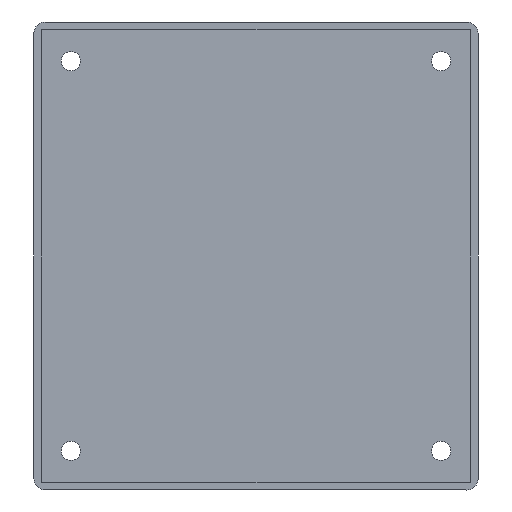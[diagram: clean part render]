
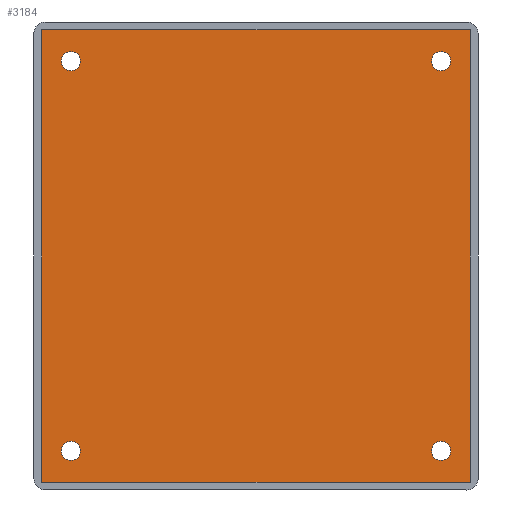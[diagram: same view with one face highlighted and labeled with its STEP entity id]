
A CAD part, front view. The second image highlights one B-rep face of the part: STEP entity #3184.
In plain terms, the highlighted planar face has unit normal (0, -1, 0).
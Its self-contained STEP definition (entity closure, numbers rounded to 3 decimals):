
#7 = CARTESIAN_POINT ( 'NONE',  ( 24.13, -0.1, 25.4 ) ) ;
#23 = ORIENTED_EDGE ( 'NONE', *, *, #3207, .F. ) ;
#49 = AXIS2_PLACEMENT_3D ( 'NONE', #175, #3267, #767 ) ;
#90 = ORIENTED_EDGE ( 'NONE', *, *, #3478, .T. ) ;
#96 = CIRCLE ( 'NONE', #988, 1.25 ) ;
#102 = ORIENTED_EDGE ( 'NONE', *, *, #3242, .F. ) ;
#121 = EDGE_CURVE ( 'NONE', #2958, #3104, #1787, .T. ) ;
#126 = DIRECTION ( 'NONE',  ( 0., 0., 1. ) ) ;
#162 = FACE_BOUND ( 'NONE', #924, .T. ) ;
#175 = CARTESIAN_POINT ( 'NONE',  ( -24.13, -0.1, 25.4 ) ) ;
#182 = EDGE_CURVE ( 'NONE', #1583, #2815, #2997, .T. ) ;
#220 = DIRECTION ( 'NONE',  ( 0., 0., 1. ) ) ;
#230 = CARTESIAN_POINT ( 'NONE',  ( -27.95, -0.1, 29.5 ) ) ;
#268 = VECTOR ( 'NONE', #614, 1000. ) ;
#315 = CARTESIAN_POINT ( 'NONE',  ( -24.13, -0.1, 24.15 ) ) ;
#327 = VERTEX_POINT ( 'NONE', #1725 ) ;
#381 = CIRCLE ( 'NONE', #715, 1.25 ) ;
#544 = CARTESIAN_POINT ( 'NONE',  ( -24.13, -0.1, -26.65 ) ) ;
#566 = DIRECTION ( 'NONE',  ( 0., -1., 0. ) ) ;
#582 = CARTESIAN_POINT ( 'NONE',  ( 27.95, -0.1, 0. ) ) ;
#614 = DIRECTION ( 'NONE',  ( 0., 0., 1. ) ) ;
#618 = CARTESIAN_POINT ( 'NONE',  ( -24.13, -0.1, -25.4 ) ) ;
#644 = AXIS2_PLACEMENT_3D ( 'NONE', #7, #2832, #1949 ) ;
#685 = FACE_BOUND ( 'NONE', #2886, .T. ) ;
#693 = VECTOR ( 'NONE', #3502, 1000. ) ;
#696 = CIRCLE ( 'NONE', #791, 1.25 ) ;
#715 = AXIS2_PLACEMENT_3D ( 'NONE', #2239, #566, #3082 ) ;
#767 = DIRECTION ( 'NONE',  ( 0., 0., 1. ) ) ;
#791 = AXIS2_PLACEMENT_3D ( 'NONE', #618, #1184, #2590 ) ;
#807 = VERTEX_POINT ( 'NONE', #544 ) ;
#809 = CIRCLE ( 'NONE', #644, 1.25 ) ;
#828 = DIRECTION ( 'NONE',  ( 0., -1., 0. ) ) ;
#830 = ORIENTED_EDGE ( 'NONE', *, *, #2484, .F. ) ;
#850 = VERTEX_POINT ( 'NONE', #315 ) ;
#924 = EDGE_LOOP ( 'NONE', ( #3013, #23 ) ) ;
#960 = CARTESIAN_POINT ( 'NONE',  ( -24.13, -0.1, 26.65 ) ) ;
#968 = EDGE_LOOP ( 'NONE', ( #3504, #90, #1879, #3154 ) ) ;
#988 = AXIS2_PLACEMENT_3D ( 'NONE', #1352, #828, #1090 ) ;
#1021 = DIRECTION ( 'NONE',  ( 0., 0., 1. ) ) ;
#1030 = PLANE ( 'NONE',  #3616 ) ;
#1087 = AXIS2_PLACEMENT_3D ( 'NONE', #2425, #1317, #220 ) ;
#1090 = DIRECTION ( 'NONE',  ( 0., 0., 1. ) ) ;
#1127 = EDGE_CURVE ( 'NONE', #1716, #850, #1797, .T. ) ;
#1133 = CIRCLE ( 'NONE', #3116, 1.25 ) ;
#1184 = DIRECTION ( 'NONE',  ( 0., -1., 0. ) ) ;
#1260 = EDGE_CURVE ( 'NONE', #807, #2733, #96, .T. ) ;
#1290 = LINE ( 'NONE', #2904, #2519 ) ;
#1317 = DIRECTION ( 'NONE',  ( 0., -1., 0. ) ) ;
#1326 = CARTESIAN_POINT ( 'NONE',  ( -27.95, -0.1, -29.5 ) ) ;
#1344 = CARTESIAN_POINT ( 'NONE',  ( 27.95, -0.1, 29.5 ) ) ;
#1352 = CARTESIAN_POINT ( 'NONE',  ( -24.13, -0.1, -25.4 ) ) ;
#1391 = CARTESIAN_POINT ( 'NONE',  ( 27.95, -0.1, -29.5 ) ) ;
#1397 = CARTESIAN_POINT ( 'NONE',  ( -27.95, -0.1, 0. ) ) ;
#1418 = VERTEX_POINT ( 'NONE', #2246 ) ;
#1583 = VERTEX_POINT ( 'NONE', #2294 ) ;
#1591 = DIRECTION ( 'NONE',  ( 0., -1., 0. ) ) ;
#1694 = VECTOR ( 'NONE', #1966, 1000. ) ;
#1716 = VERTEX_POINT ( 'NONE', #960 ) ;
#1725 = CARTESIAN_POINT ( 'NONE',  ( 24.13, -0.1, 26.65 ) ) ;
#1787 = CIRCLE ( 'NONE', #1087, 1.25 ) ;
#1797 = CIRCLE ( 'NONE', #49, 1.25 ) ;
#1803 = EDGE_CURVE ( 'NONE', #1418, #327, #2496, .T. ) ;
#1872 = CARTESIAN_POINT ( 'NONE',  ( 24.13, -0.1, 25.4 ) ) ;
#1873 = LINE ( 'NONE', #582, #268 ) ;
#1879 = ORIENTED_EDGE ( 'NONE', *, *, #182, .T. ) ;
#1949 = DIRECTION ( 'NONE',  ( 0., 0., 1. ) ) ;
#1966 = DIRECTION ( 'NONE',  ( 0., 0., -1. ) ) ;
#2042 = CARTESIAN_POINT ( 'NONE',  ( 24.13, -0.1, -24.15 ) ) ;
#2049 = EDGE_CURVE ( 'NONE', #3271, #2288, #1873, .T. ) ;
#2085 = LINE ( 'NONE', #3488, #693 ) ;
#2095 = DIRECTION ( 'NONE',  ( 0., -1., 0. ) ) ;
#2130 = DIRECTION ( 'NONE',  ( 0., -1., 0. ) ) ;
#2239 = CARTESIAN_POINT ( 'NONE',  ( -24.13, -0.1, 25.4 ) ) ;
#2246 = CARTESIAN_POINT ( 'NONE',  ( 24.13, -0.1, 24.15 ) ) ;
#2288 = VERTEX_POINT ( 'NONE', #1344 ) ;
#2293 = ORIENTED_EDGE ( 'NONE', *, *, #2995, .F. ) ;
#2294 = CARTESIAN_POINT ( 'NONE',  ( -27.95, -0.1, 29.5 ) ) ;
#2333 = CARTESIAN_POINT ( 'NONE',  ( 24.13, -0.1, -25.4 ) ) ;
#2425 = CARTESIAN_POINT ( 'NONE',  ( 24.13, -0.1, -25.4 ) ) ;
#2462 = ORIENTED_EDGE ( 'NONE', *, *, #1260, .F. ) ;
#2484 = EDGE_CURVE ( 'NONE', #2733, #807, #696, .T. ) ;
#2496 = CIRCLE ( 'NONE', #2504, 1.25 ) ;
#2504 = AXIS2_PLACEMENT_3D ( 'NONE', #1872, #2130, #1021 ) ;
#2519 = VECTOR ( 'NONE', #3007, 1000. ) ;
#2557 = EDGE_CURVE ( 'NONE', #2815, #3271, #2085, .T. ) ;
#2590 = DIRECTION ( 'NONE',  ( 0., 0., 1. ) ) ;
#2710 = EDGE_LOOP ( 'NONE', ( #830, #2462 ) ) ;
#2718 = CARTESIAN_POINT ( 'NONE',  ( -24.13, -0.1, -24.15 ) ) ;
#2733 = VERTEX_POINT ( 'NONE', #2718 ) ;
#2761 = FACE_OUTER_BOUND ( 'NONE', #968, .T. ) ;
#2815 = VERTEX_POINT ( 'NONE', #1326 ) ;
#2832 = DIRECTION ( 'NONE',  ( 0., -1., 0. ) ) ;
#2886 = EDGE_LOOP ( 'NONE', ( #3549, #2293 ) ) ;
#2904 = CARTESIAN_POINT ( 'NONE',  ( 0., -0.1, 29.5 ) ) ;
#2958 = VERTEX_POINT ( 'NONE', #2042 ) ;
#2995 = EDGE_CURVE ( 'NONE', #3104, #2958, #1133, .T. ) ;
#2997 = LINE ( 'NONE', #1397, #1694 ) ;
#3007 = DIRECTION ( 'NONE',  ( -1., 0., 0. ) ) ;
#3013 = ORIENTED_EDGE ( 'NONE', *, *, #1127, .F. ) ;
#3023 = DIRECTION ( 'NONE',  ( 0., 0., -1. ) ) ;
#3082 = DIRECTION ( 'NONE',  ( 0., 0., 1. ) ) ;
#3104 = VERTEX_POINT ( 'NONE', #3546 ) ;
#3116 = AXIS2_PLACEMENT_3D ( 'NONE', #2333, #2095, #126 ) ;
#3130 = EDGE_LOOP ( 'NONE', ( #102, #3645 ) ) ;
#3154 = ORIENTED_EDGE ( 'NONE', *, *, #2557, .T. ) ;
#3184 = ADVANCED_FACE ( 'NONE', ( #3522, #162, #3197, #685, #2761 ), #1030, .T. ) ;
#3197 = FACE_BOUND ( 'NONE', #3130, .T. ) ;
#3207 = EDGE_CURVE ( 'NONE', #850, #1716, #381, .T. ) ;
#3242 = EDGE_CURVE ( 'NONE', #327, #1418, #809, .T. ) ;
#3267 = DIRECTION ( 'NONE',  ( 0., -1., 0. ) ) ;
#3271 = VERTEX_POINT ( 'NONE', #1391 ) ;
#3478 = EDGE_CURVE ( 'NONE', #2288, #1583, #1290, .T. ) ;
#3488 = CARTESIAN_POINT ( 'NONE',  ( 0., -0.1, -29.5 ) ) ;
#3502 = DIRECTION ( 'NONE',  ( 1., 0., 0. ) ) ;
#3504 = ORIENTED_EDGE ( 'NONE', *, *, #2049, .T. ) ;
#3522 = FACE_BOUND ( 'NONE', #2710, .T. ) ;
#3546 = CARTESIAN_POINT ( 'NONE',  ( 24.13, -0.1, -26.65 ) ) ;
#3549 = ORIENTED_EDGE ( 'NONE', *, *, #121, .F. ) ;
#3616 = AXIS2_PLACEMENT_3D ( 'NONE', #230, #1591, #3023 ) ;
#3645 = ORIENTED_EDGE ( 'NONE', *, *, #1803, .F. ) ;
